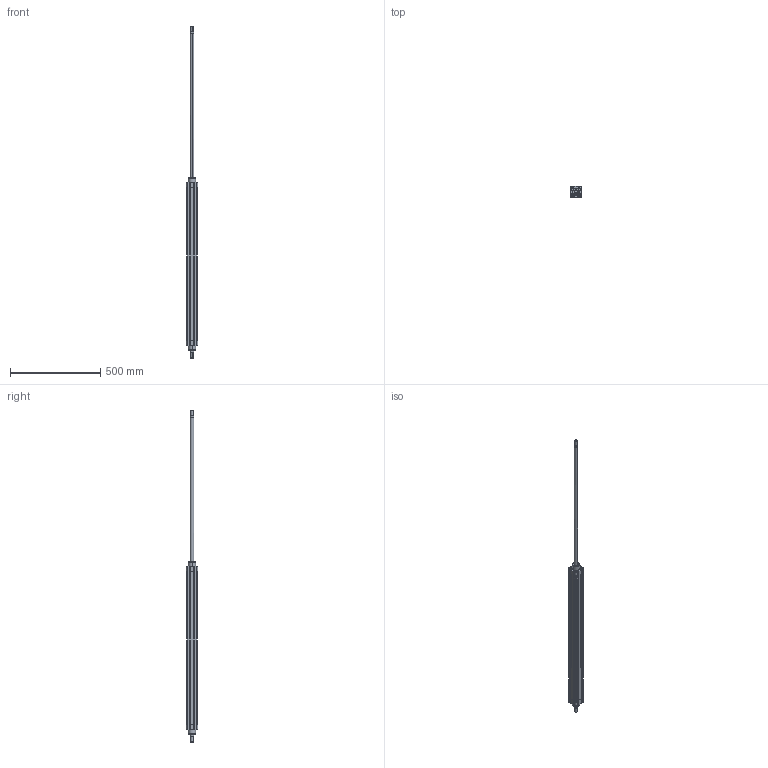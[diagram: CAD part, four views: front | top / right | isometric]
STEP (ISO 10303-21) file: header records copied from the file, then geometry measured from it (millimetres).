
FILE_DESCRIPTION((''),'2;1');
FILE_NAME('N11M40500800.stp','2010-01-06T23:54:53',('B. Petkovic 2010'),('AZ PNEUMATICA S.r.l.'),'Mechanical Desktop 2006','Mechanical Desktop 2006','Via Marco Biagi 6, I-20020 Misinto(MI) Italy, azpneu@tin.it');
FILE_SCHEMA(('CONFIG_CONTROL_DESIGN'));
Length unit declared in the file: millimetre
Products named in the file (2): N11M40400800; CILINDAR
Assembly tree (1 placements, depth 2):
  N11M40400800
    CILINDAR
Bounding box: 64 x 64 x 1844 mm (x, y, z)
Volume: 3380872.3 mm3; surface area: 374029.8 mm2
Topology: 1 solids, 1 shells, 504 faces, 1326 edges, 869 vertices
Faces by surface type: plane 276, cylinder 200, torus 12, cone 8, bspline 8
Entity records: 16260 total; most frequent: CARTESIAN_POINT 3253, DIRECTION 2807, ORIENTED_EDGE 2652, EDGE_CURVE 1326, AXIS2_PLACEMENT_3D 991, VERTEX_POINT 869, VECTOR 825, LINE 825
